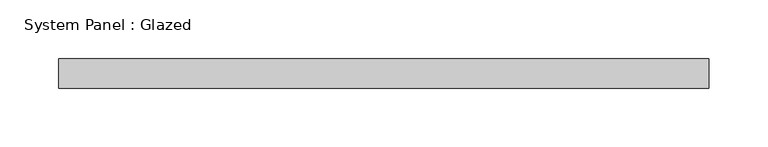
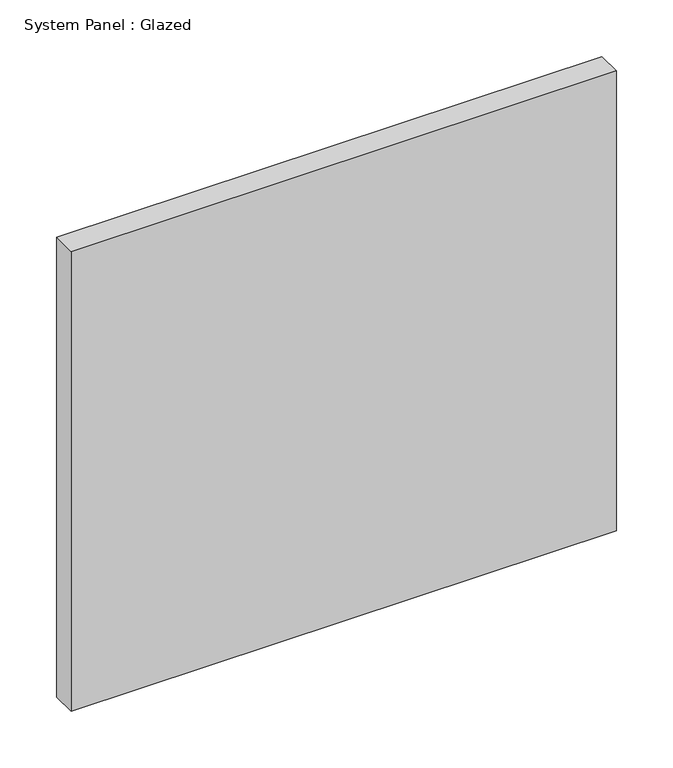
"""IFC4 building model written with IfcOpenShell, lengths in millimetres: plate geometry, System Panel : Glazed."""

from ifc_helpers import new_model, si_unit, origin, origin_with_axes, place, context, project, spatial, polyline, outline, extrude, source, transform, mapped, element, save


def system_panel_glazed_fe6fc7be(model_context):
    return source(origin(), model_context, "Body", "SweptSolid", [
        extrude(outline(polyline([(278.13, -12.7), (-278.13, -12.7), (-278.13, 12.7), (278.13, 12.7), (278.13, -12.7)])), origin_with_axes(), (0.0, 0.0, 1.0), 495.3),
    ])


if __name__ == "__main__":
    model = new_model("IFC4")
    model_context = context("Model", 3, world=origin())
    ifc_project = project(units=[si_unit("LENGTHUNIT", "METRE", prefix="MILLI")], contexts=[model_context])
    site = spatial("IfcSite", under=ifc_project)
    building = spatial("IfcBuilding", under=site)
    placement = place(None, origin())
    system_panel_glazed_shape = system_panel_glazed_fe6fc7be(model_context)
    element("IfcPlate", 1, ObjectType="System Panel : Glazed", at=placement, inside=building, context=model_context, shape_type="MappedRepresentation", body=[
        mapped(system_panel_glazed_shape, transform((0.0, 0.0, 0.0), x_axis=(1.0, 0.0, 0.0), y_axis=(0.0, 1.0, 0.0), z_axis=(0.0, 0.0, 1.0))),
    ])
    save(model, "model.ifc")
